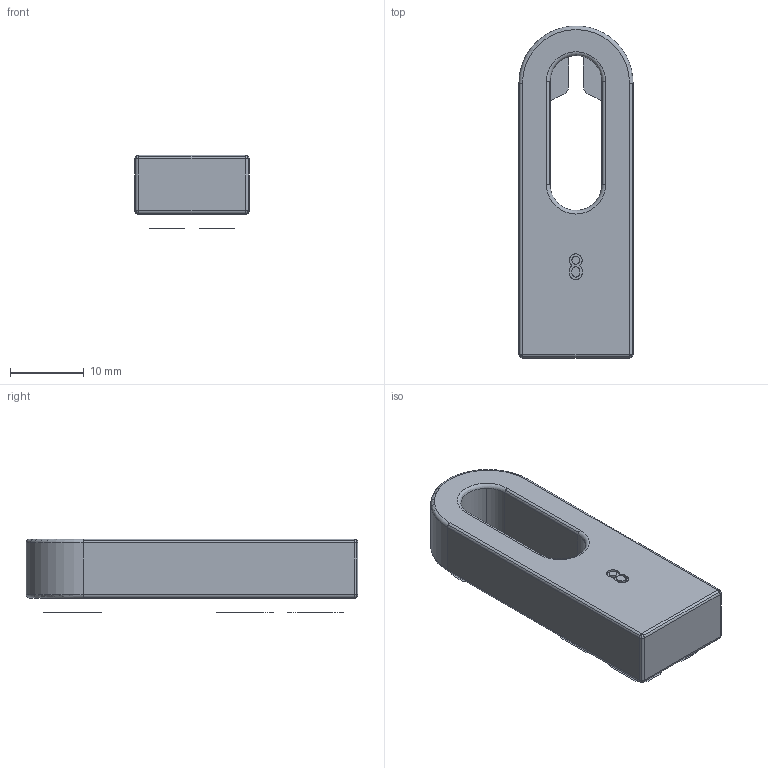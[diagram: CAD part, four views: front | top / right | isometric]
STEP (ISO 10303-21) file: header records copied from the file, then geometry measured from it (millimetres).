
FILE_DESCRIPTION(('STEP AP214'),'1');
FILE_NAME('BF-20240124-cad-shim1_8mm_light-02cbr.stp','2024-01-24T17:26:41',(' '),(' '),'Spatial InterOp 3D',' ',' ');
FILE_SCHEMA(('AUTOMOTIVE_DESIGN { 1 0 10303 214 1 1 1 1 }'));
Length unit declared in the file: metre
Products named in the file (1): Volumenkörper
Bounding box: 15.5 x 44.99 x 10 mm (x, y, z)
Volume: 3468.4 mm3; surface area: 2999 mm2
Topology: 1 solids, 7 shells, 276 faces, 739 edges, 472 vertices
Faces by surface type: cylinder 120, extrusion 64, torus 42, plane 42, sphere 8
Entity records: 8994 total; most frequent: CARTESIAN_POINT 2107, DIRECTION 1413, ORIENTED_EDGE 1410, EDGE_CURVE 731, AXIS2_PLACEMENT_3D 530, VERTEX_POINT 470, VECTOR 353, CIRCLE 314
